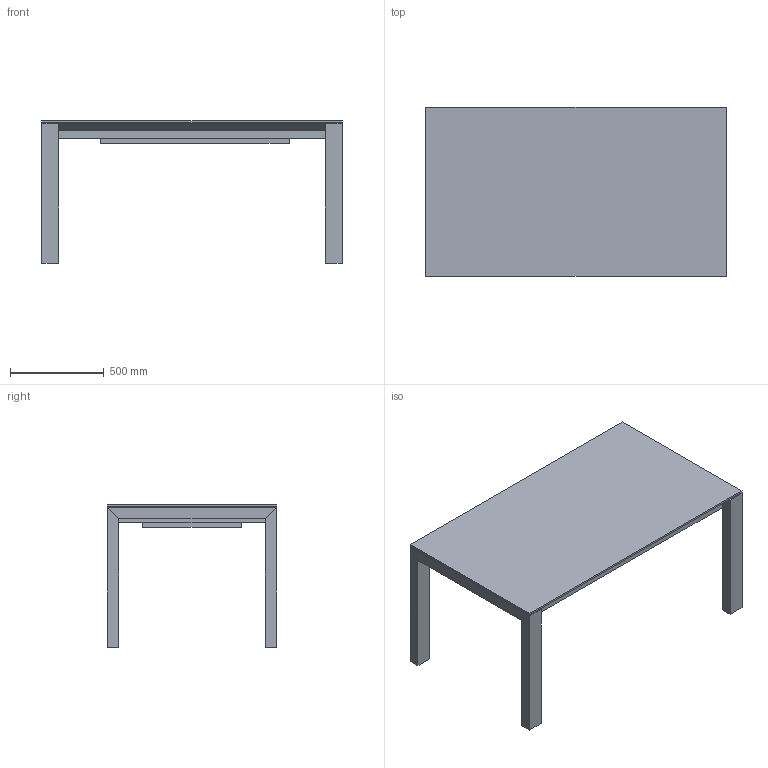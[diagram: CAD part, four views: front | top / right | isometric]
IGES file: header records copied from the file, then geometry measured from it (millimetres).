
Global section: file name: M:\STUDIO polstrin\BA _Datab; native system: Rhinoceros ( May 22 2017 ); preprocessor: Trout Lake IGES 012 May 22 2017; date: 180702.084417; units: millimetre
Bounding box: 1600 x 900 x 760 mm (x, y, z)
Surface area: 9214208.7 mm2 (no closed solid volume)
Topology: 0 solids, 0 shells, 76 faces, 404 edges, 504 vertices
Faces by surface type: bspline 76
